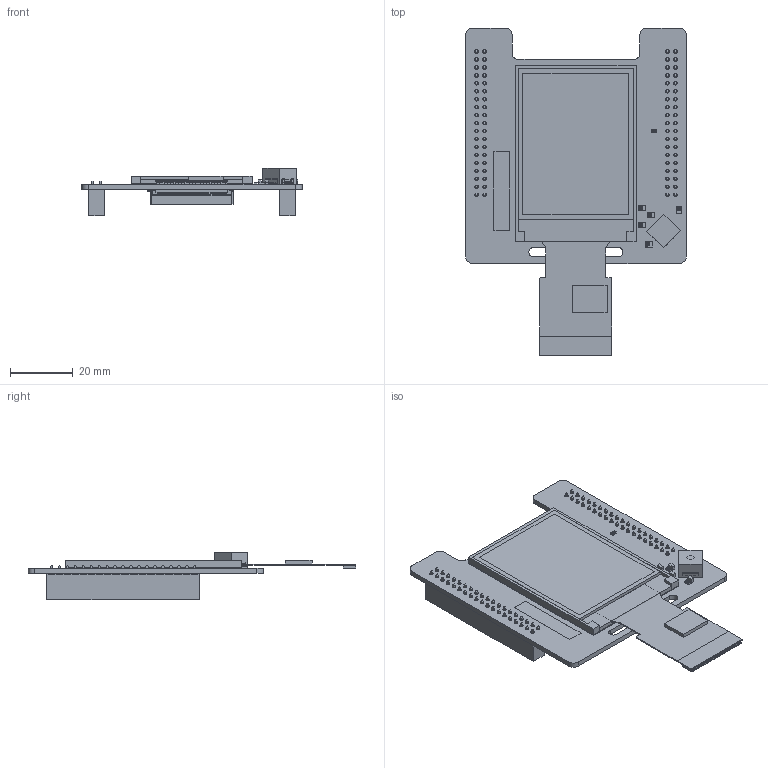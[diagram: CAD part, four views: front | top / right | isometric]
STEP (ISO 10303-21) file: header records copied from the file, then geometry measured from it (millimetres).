
FILE_DESCRIPTION(('Open CASCADE Model'),'2;1');
FILE_NAME('Open CASCADE Shape Model','2021-08-20T15:21:50',('Author'),( 'Open CASCADE'),'Open CASCADE STEP processor 6.8','Open CASCADE 6.8' ,'Unknown');
FILE_SCHEMA(('AUTOMOTIVE_DESIGN { 1 0 10303 214 1 1 1 1 }'));
Length unit declared in the file: millimetre
Products named in the file (94): PCB; Board; Open CASCADE STEP translator 6.8 1.1.1; CN2; SSW-119-01-G-D; _T1SSW-119-01-G-D; _P2SSW-119-01-G-D; 6538549088; Extruded; R12; R0603; 6538553568; R11; R1206; 6538552048; R10; R9; R8; R7; 6538553328; C7; C0603; 6538554448; R6; R5; R4; R3; R2; R1; C6; 6538554768; C5; C4; C3; C2; C1; B1; SWI_XIEJIA_MT-008A_6P; 6538560528; CN3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
Assembly tree (195 placements, depth 4):
  PCB
    Board
      Open CASCADE STEP translator 6.8 1.1.1
    CN2
      SSW-119-01-G-D
        _T1SSW-119-01-G-D
        _P2SSW-119-01-G-D
      6538549088
        Extruded
    R12
      R0603
      6538553568
        Extruded
    R11
      R1206
      6538552048
        Extruded
    R10
      R1206
      6538552048
        Extruded
    R9
      R1206
      6538552048
        Extruded
    R8
      R1206
      6538552048
        Extruded
    R7
      R0603
      6538553328
        Extruded
    C7
      C0603
      6538554448
        Extruded
    R6
      R0603
      6538553568
        Extruded
    R5
      R0603
      6538553328
        Extruded
    R4
      R0603
      6538553328
        Extruded
    R3
      R0603
      6538553328
        Extruded
    R2
      R0603
      6538553328
        Extruded
    R1
      R0603
      6538553568
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Bounding box: 70.36 x 104.69 x 15.31 mm (x, y, z)
Volume: 22458.7 mm3; surface area: 38858.2 mm2
Topology: 179 solids, 179 shells, 5076 faces, 13319 edges, 8710 vertices
Faces by surface type: plane 4024, cylinder 539, bspline 507, cone 6
Full cylindrical faces by diameter (mm): 0.5 x1, 0.8 x1, 1 x2, 1.1 x77, 1.2 x2
Entity records: 96630 total; most frequent: CARTESIAN_POINT 18403, ORIENTED_EDGE 15048, DIRECTION 14020, EDGE_CURVE 7524, LINE 6594, VECTOR 6594, VERTEX_POINT 4940, AXIS2_PLACEMENT_3D 3713
